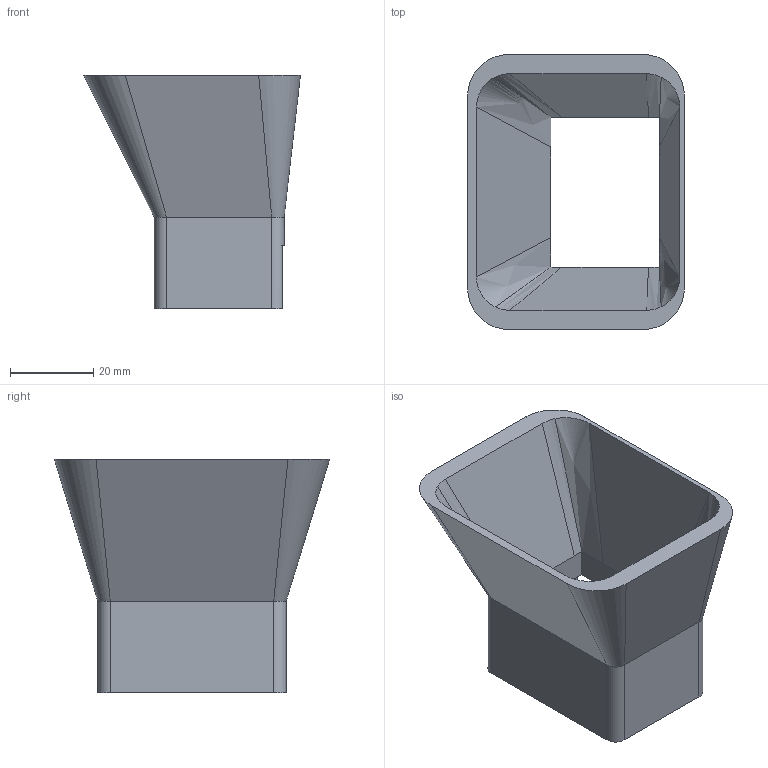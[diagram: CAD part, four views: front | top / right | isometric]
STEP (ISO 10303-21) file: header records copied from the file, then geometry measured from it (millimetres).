
FILE_DESCRIPTION(('Open CASCADE Model'),'2;1');
FILE_NAME('Open CASCADE Shape Model','2026-10-20T15:47:44',('Author'),( 'Open CASCADE'),'Open CASCADE STEP processor 8.0','build123d', 'Unknown');
FILE_SCHEMA(('AUTOMOTIVE_DESIGN { 1 0 10303 214 1 1 1 1 }'));
Length unit declared in the file: millimetre
Products named in the file (2): =>[0:1:1:2]; COMPOUND
Assembly tree (1 placements, depth 2):
  =>[0:1:1:2]
    COMPOUND
Bounding box: 52 x 66 x 56 mm (x, y, z)
Volume: 25414.3 mm3; surface area: 18374.5 mm2
Topology: 1 solids, 1 shells, 38 faces, 96 edges, 60 vertices
Faces by surface type: bspline 20, plane 14, cylinder 4
Entity records: 2764 total; most frequent: CARTESIAN_POINT 1036, DIRECTION 232, ORIENTED_EDGE 192, PCURVE 192, DEFINITIONAL_REPRESENTATION 192, LINE 156, VECTOR 156, B_SPLINE_CURVE_WITH_KNOTS 108
